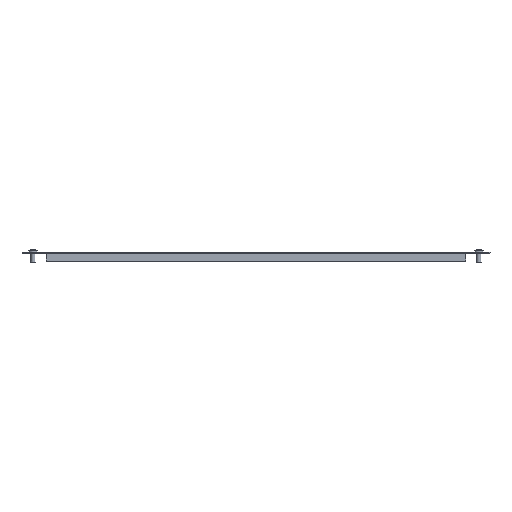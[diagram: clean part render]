
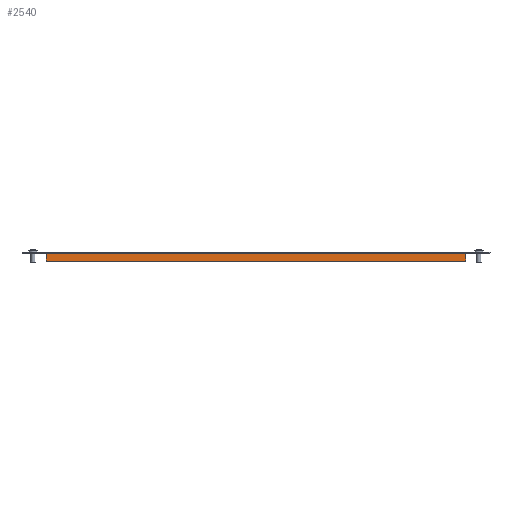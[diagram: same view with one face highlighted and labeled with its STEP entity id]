
A CAD part, front view. The second image highlights one B-rep face of the part: STEP entity #2540.
In plain terms, the highlighted planar face has unit normal (0, -1, 0).
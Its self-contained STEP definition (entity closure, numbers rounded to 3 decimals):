
#19 = LINE ( 'NONE', #4634, #3202 ) ;
#173 = DIRECTION ( 'NONE',  ( 0., 0., 1. ) ) ;
#272 = DIRECTION ( 'NONE',  ( 1., 0., 0. ) ) ;
#476 = VECTOR ( 'NONE', #1868, 1000. ) ;
#491 = CARTESIAN_POINT ( 'NONE',  ( 235.5, -535., -2.4 ) ) ;
#510 = VERTEX_POINT ( 'NONE', #4181 ) ;
#540 = EDGE_CURVE ( 'NONE', #4104, #510, #1014, .T. ) ;
#566 = CARTESIAN_POINT ( 'NONE',  ( -235.5, -535., -1.8 ) ) ;
#696 = CARTESIAN_POINT ( 'NONE',  ( 0., -535., 0. ) ) ;
#762 = ORIENTED_EDGE ( 'NONE', *, *, #3382, .F. ) ;
#767 = VECTOR ( 'NONE', #2244, 1000. ) ;
#869 = CARTESIAN_POINT ( 'NONE',  ( -235.5, -535., -2.4 ) ) ;
#909 = ORIENTED_EDGE ( 'NONE', *, *, #918, .T. ) ;
#918 = EDGE_CURVE ( 'NONE', #4104, #3011, #1651, .T. ) ;
#959 = FACE_OUTER_BOUND ( 'NONE', #2956, .T. ) ;
#1012 = DIRECTION ( 'NONE',  ( 0., -1., 0. ) ) ;
#1014 = LINE ( 'NONE', #2581, #476 ) ;
#1080 = CARTESIAN_POINT ( 'NONE',  ( 235.5, -535., 0. ) ) ;
#1446 = PLANE ( 'NONE',  #2310 ) ;
#1651 = LINE ( 'NONE', #491, #2702 ) ;
#1747 = CARTESIAN_POINT ( 'NONE',  ( 235.5, -535., -2.4 ) ) ;
#1765 = VERTEX_POINT ( 'NONE', #2001 ) ;
#1779 = DIRECTION ( 'NONE',  ( -1., 0., 0. ) ) ;
#1868 = DIRECTION ( 'NONE',  ( 0., 0., -1. ) ) ;
#1960 = EDGE_CURVE ( 'NONE', #1765, #3422, #4494, .T. ) ;
#2001 = CARTESIAN_POINT ( 'NONE',  ( -235.5, -535., -10. ) ) ;
#2186 = LINE ( 'NONE', #2521, #767 ) ;
#2244 = DIRECTION ( 'NONE',  ( 0., 0., 1. ) ) ;
#2310 = AXIS2_PLACEMENT_3D ( 'NONE', #696, #1012, #272 ) ;
#2516 = ORIENTED_EDGE ( 'NONE', *, *, #2570, .F. ) ;
#2521 = CARTESIAN_POINT ( 'NONE',  ( -235.5, -535., 0. ) ) ;
#2533 = EDGE_CURVE ( 'NONE', #3011, #4033, #2549, .T. ) ;
#2540 = ADVANCED_FACE ( 'NONE', ( #959 ), #1446, .T. ) ;
#2549 = LINE ( 'NONE', #4913, #4531 ) ;
#2570 = EDGE_CURVE ( 'NONE', #3422, #4033, #2186, .T. ) ;
#2581 = CARTESIAN_POINT ( 'NONE',  ( 235.5, -535., -10. ) ) ;
#2690 = ORIENTED_EDGE ( 'NONE', *, *, #540, .F. ) ;
#2702 = VECTOR ( 'NONE', #3630, 1000. ) ;
#2956 = EDGE_LOOP ( 'NONE', ( #2690, #909, #3925, #2516, #3778, #762 ) ) ;
#3011 = VERTEX_POINT ( 'NONE', #1080 ) ;
#3202 = VECTOR ( 'NONE', #4775, 1000. ) ;
#3261 = CARTESIAN_POINT ( 'NONE',  ( -235.5, -535., 0. ) ) ;
#3292 = VECTOR ( 'NONE', #173, 1000. ) ;
#3382 = EDGE_CURVE ( 'NONE', #510, #1765, #19, .T. ) ;
#3422 = VERTEX_POINT ( 'NONE', #869 ) ;
#3630 = DIRECTION ( 'NONE',  ( 0., 0., 1. ) ) ;
#3778 = ORIENTED_EDGE ( 'NONE', *, *, #1960, .F. ) ;
#3925 = ORIENTED_EDGE ( 'NONE', *, *, #2533, .T. ) ;
#4033 = VERTEX_POINT ( 'NONE', #3261 ) ;
#4104 = VERTEX_POINT ( 'NONE', #1747 ) ;
#4181 = CARTESIAN_POINT ( 'NONE',  ( 235.5, -535., -10. ) ) ;
#4494 = LINE ( 'NONE', #566, #3292 ) ;
#4531 = VECTOR ( 'NONE', #1779, 1000. ) ;
#4634 = CARTESIAN_POINT ( 'NONE',  ( -235.5, -535., -10. ) ) ;
#4775 = DIRECTION ( 'NONE',  ( -1., 0., 0. ) ) ;
#4913 = CARTESIAN_POINT ( 'NONE',  ( 0., -535., 0. ) ) ;
